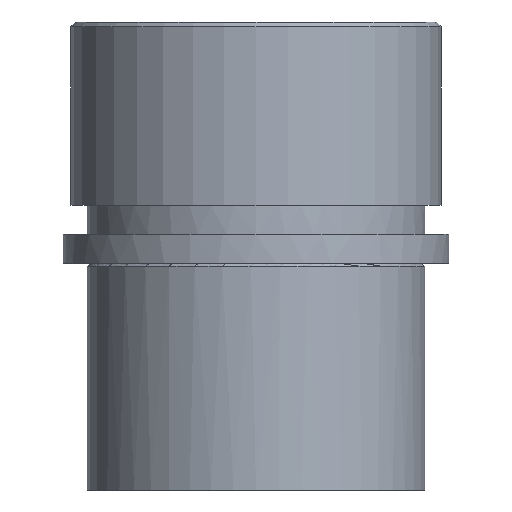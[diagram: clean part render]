
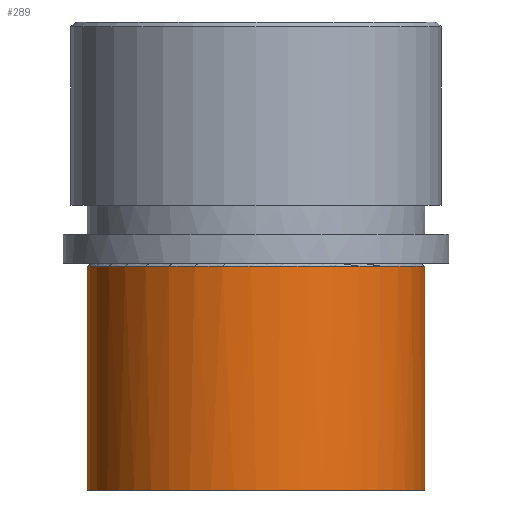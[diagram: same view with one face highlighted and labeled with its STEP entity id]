
A CAD part, front view. The second image highlights one B-rep face of the part: STEP entity #289.
In plain terms, the highlighted cylindrical face has radius 35 mm (diameter 70 mm), a partial arc.
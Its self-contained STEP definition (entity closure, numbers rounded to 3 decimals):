
#109=CARTESIAN_POINT('Control Point',(-35.,0.,-47.)) ;
#110=CARTESIAN_POINT('Control Point',(-35.,-3.188,-47.)) ;
#111=CARTESIAN_POINT('Control Point',(-34.637,-6.376,-47.)) ;
#112=CARTESIAN_POINT('Control Point',(-33.911,-9.509,-47.)) ;
#113=CARTESIAN_POINT('Control Point',(-31.758,-15.555,-47.)) ;
#114=CARTESIAN_POINT('Control Point',(-28.302,-20.962,-47.)) ;
#115=CARTESIAN_POINT('Control Point',(-26.272,-23.456,-47.)) ;
#116=CARTESIAN_POINT('Control Point',(-21.679,-27.938,-47.)) ;
#117=CARTESIAN_POINT('Control Point',(-16.197,-31.274,-47.)) ;
#118=CARTESIAN_POINT('Control Point',(-13.276,-32.621,-47.)) ;
#119=CARTESIAN_POINT('Control Point',(-7.18,-34.626,-47.)) ;
#120=CARTESIAN_POINT('Control Point',(-0.79,-35.21,-47.)) ;
#121=CARTESIAN_POINT('Control Point',(2.426,-35.135,-47.)) ;
#122=CARTESIAN_POINT('Control Point',(8.782,-34.255,-47.)) ;
#123=CARTESIAN_POINT('Control Point',(14.778,-31.968,-47.)) ;
#124=CARTESIAN_POINT('Control Point',(17.633,-30.487,-47.)) ;
#125=CARTESIAN_POINT('Control Point',(22.955,-26.9,-47.)) ;
#126=CARTESIAN_POINT('Control Point',(27.334,-22.209,-47.)) ;
#127=CARTESIAN_POINT('Control Point',(29.246,-19.623,-47.)) ;
#128=CARTESIAN_POINT('Control Point',(32.284,-14.345,-47.)) ;
#129=CARTESIAN_POINT('Control Point',(34.122,-8.548,-47.)) ;
#130=CARTESIAN_POINT('Control Point',(34.707,-5.725,-47.)) ;
#131=CARTESIAN_POINT('Control Point',(35.,-2.863,-47.)) ;
#132=CARTESIAN_POINT('Control Point',(35.,0.,-47.)) ;
#133=CARTESIAN_POINT('Vertex',(-35.,0.,-47.)) ;
#135=CARTESIAN_POINT('Vertex',(35.,0.,-47.)) ;
#247=CARTESIAN_POINT('Axis2P3D Location',(0.,0.,50.)) ;
#252=CARTESIAN_POINT('Line Origine',(35.,0.,50.)) ;
#256=CARTESIAN_POINT('Vertex',(35.,0.,-0.6)) ;
#260=CARTESIAN_POINT('Control Point',(-35.,0.,-0.6)) ;
#261=CARTESIAN_POINT('Control Point',(-35.,-5.498,-0.6)) ;
#262=CARTESIAN_POINT('Control Point',(-33.921,-10.996,-0.6)) ;
#263=CARTESIAN_POINT('Control Point',(-31.76,-16.21,-0.6)) ;
#264=CARTESIAN_POINT('Control Point',(-25.512,-25.512,-0.6)) ;
#265=CARTESIAN_POINT('Control Point',(-16.21,-31.76,-0.6)) ;
#266=CARTESIAN_POINT('Control Point',(-10.996,-33.921,-0.6)) ;
#267=CARTESIAN_POINT('Control Point',(0.,-36.079,-0.6)) ;
#268=CARTESIAN_POINT('Control Point',(10.996,-33.921,-0.6)) ;
#269=CARTESIAN_POINT('Control Point',(16.21,-31.76,-0.6)) ;
#270=CARTESIAN_POINT('Control Point',(25.512,-25.512,-0.6)) ;
#271=CARTESIAN_POINT('Control Point',(31.76,-16.21,-0.6)) ;
#272=CARTESIAN_POINT('Control Point',(33.921,-10.996,-0.6)) ;
#273=CARTESIAN_POINT('Control Point',(35.,-5.498,-0.6)) ;
#274=CARTESIAN_POINT('Control Point',(35.,0.,-0.6)) ;
#275=CARTESIAN_POINT('Vertex',(-35.,0.,-0.6)) ;
#278=CARTESIAN_POINT('Line Origine',(-35.,0.,50.)) ;
#248=DIRECTION('Axis2P3D Direction',(0.,0.,-1.)) ;
#249=DIRECTION('Axis2P3D XDirection',(1.,0.,0.)) ;
#253=DIRECTION('Vector Direction',(0.,0.,-1.)) ;
#279=DIRECTION('Vector Direction',(0.,0.,-1.)) ;
#250=AXIS2_PLACEMENT_3D('Cylinder Axis2P3D',#247,#248,#249) ;
#284=ORIENTED_EDGE('',*,*,#258,.T.) ;
#285=ORIENTED_EDGE('',*,*,#277,.F.) ;
#286=ORIENTED_EDGE('',*,*,#282,.T.) ;
#287=ORIENTED_EDGE('',*,*,#137,.T.) ;
#254=VECTOR('Line Direction',#253,1.) ;
#280=VECTOR('Line Direction',#279,1.) ;
#289=ADVANCED_FACE('735-48',(#288),#251,.T.) ;
#108=B_SPLINE_CURVE_WITH_KNOTS('',5,(#109,#110,#111,#112,#113,#114,#115,#116,#117,#118,#119,#120,#121,#122,#123,#124,#125,#126,#127,#128,#129,#130,#131,#132),.UNSPECIFIED.,.F.,.U.,(6,3,3,3,3,3,3,6),(0.,22.543,45.086,67.629,90.172,112.716,135.259,155.5),.UNSPECIFIED.) ;
#259=B_SPLINE_CURVE_WITH_KNOTS('',5,(#260,#261,#262,#263,#264,#265,#266,#267,#268,#269,#270,#271,#272,#273,#274),.UNSPECIFIED.,.F.,.U.,(6,3,3,3,6),(-54.978,-27.489,0.,27.489,54.978),.UNSPECIFIED.) ;
#251=CYLINDRICAL_SURFACE('generated cylinder',#250,35.) ;
#137=EDGE_CURVE('',#134,#136,#108,.T.) ;
#258=EDGE_CURVE('',#136,#257,#255,.F.) ;
#277=EDGE_CURVE('',#276,#257,#259,.T.) ;
#282=EDGE_CURVE('',#276,#134,#281,.T.) ;
#283=EDGE_LOOP('',(#284,#285,#286,#287)) ;
#288=FACE_OUTER_BOUND('',#283,.T.) ;
#255=LINE('Line',#252,#254) ;
#281=LINE('Line',#278,#280) ;
#134=VERTEX_POINT('',#133) ;
#136=VERTEX_POINT('',#135) ;
#257=VERTEX_POINT('',#256) ;
#276=VERTEX_POINT('',#275) ;
